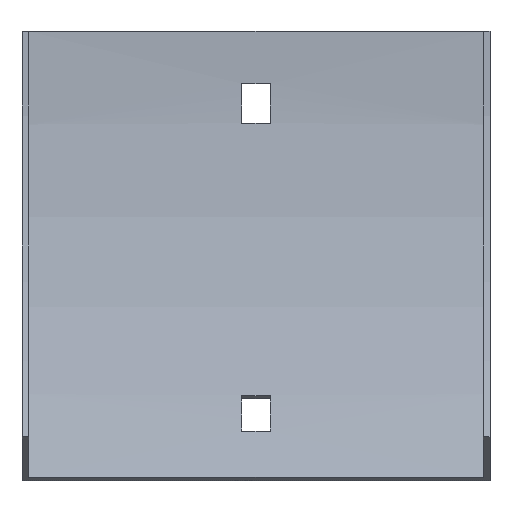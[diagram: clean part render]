
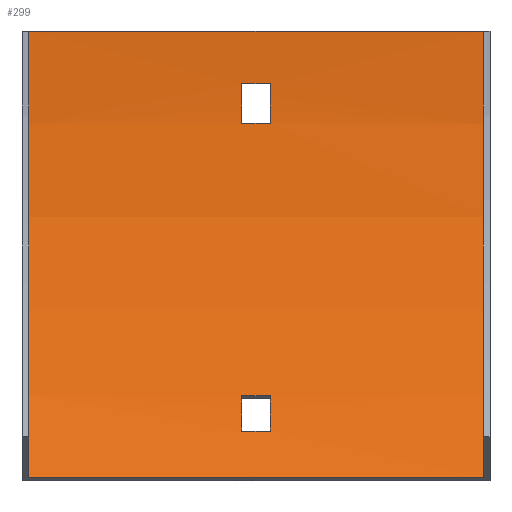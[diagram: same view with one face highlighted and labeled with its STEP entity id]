
A CAD part, front view. The second image highlights one B-rep face of the part: STEP entity #299.
In plain terms, the highlighted cylindrical face has radius 204 mm (diameter 408 mm), a partial arc.
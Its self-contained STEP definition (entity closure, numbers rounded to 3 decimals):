
#7 = DIRECTION ( 'NONE',  ( 1., 0., 0. ) ) ;
#18 = DIRECTION ( 'NONE',  ( 1., 0., 0. ) ) ;
#20 = CARTESIAN_POINT ( 'NONE',  ( 3.25, -1.853, -12. ) ) ;
#32 = ORIENTED_EDGE ( 'NONE', *, *, #36, .F. ) ;
#36 = EDGE_CURVE ( 'NONE', #607, #523, #484, .T. ) ;
#38 = VERTEX_POINT ( 'NONE', #58 ) ;
#40 = VERTEX_POINT ( 'NONE', #443 ) ;
#41 = CIRCLE ( 'NONE', #528, 204. ) ;
#49 = EDGE_CURVE ( 'NONE', #326, #594, #64, .T. ) ;
#50 = AXIS2_PLACEMENT_3D ( 'NONE', #157, #348, #536 ) ;
#52 = EDGE_CURVE ( 'NONE', #38, #239, #340, .T. ) ;
#53 = DIRECTION ( 'NONE',  ( 0., 0., 1. ) ) ;
#58 = CARTESIAN_POINT ( 'NONE',  ( 3.25, -19.269, -83.272 ) ) ;
#59 = DIRECTION ( 'NONE',  ( 0., 0., -1. ) ) ;
#60 = CARTESIAN_POINT ( 'NONE',  ( 53.5, -2.584, -21. ) ) ;
#64 = CIRCLE ( 'NONE', #50, 204. ) ;
#66 = ORIENTED_EDGE ( 'NONE', *, *, #576, .F. ) ;
#77 = EDGE_CURVE ( 'NONE', #574, #38, #111, .T. ) ;
#86 = CIRCLE ( 'NONE', #453, 204. ) ;
#90 = ORIENTED_EDGE ( 'NONE', *, *, #287, .T. ) ;
#98 = CARTESIAN_POINT ( 'NONE',  ( -52., -205.5, 0. ) ) ;
#103 = LINE ( 'NONE', #425, #177 ) ;
#108 = DIRECTION ( 'NONE',  ( 0., 0., 1. ) ) ;
#111 = LINE ( 'NONE', #498, #493 ) ;
#115 = DIRECTION ( 'NONE',  ( 0., 0., 1. ) ) ;
#118 = CARTESIAN_POINT ( 'NONE',  ( -3.25, -19.269, -83.272 ) ) ;
#129 = CARTESIAN_POINT ( 'NONE',  ( -52., -28.831, -102. ) ) ;
#137 = VERTEX_POINT ( 'NONE', #129 ) ;
#145 = DIRECTION ( 'NONE',  ( -1., 0., 0. ) ) ;
#149 = DIRECTION ( 'NONE',  ( -1., 0., 0. ) ) ;
#154 = DIRECTION ( 'NONE',  ( 1., 0., 0. ) ) ;
#157 = CARTESIAN_POINT ( 'NONE',  ( 52., -205.5, 0. ) ) ;
#160 = DIRECTION ( 'NONE',  ( 1., 0., 0. ) ) ;
#161 = VERTEX_POINT ( 'NONE', #170 ) ;
#165 = CARTESIAN_POINT ( 'NONE',  ( -3.25, -1.853, -12. ) ) ;
#167 = CIRCLE ( 'NONE', #338, 204. ) ;
#169 = AXIS2_PLACEMENT_3D ( 'NONE', #247, #18, #59 ) ;
#170 = CARTESIAN_POINT ( 'NONE',  ( -3.25, -23.137, -91.431 ) ) ;
#175 = EDGE_LOOP ( 'NONE', ( #490, #66, #427, #32 ) ) ;
#176 = ORIENTED_EDGE ( 'NONE', *, *, #49, .T. ) ;
#177 = VECTOR ( 'NONE', #221, 1000. ) ;
#199 = CYLINDRICAL_SURFACE ( 'NONE', #325, 204. ) ;
#202 = DIRECTION ( 'NONE',  ( -1., 0., 0. ) ) ;
#213 = CARTESIAN_POINT ( 'NONE',  ( 52., -1.5, 0. ) ) ;
#221 = DIRECTION ( 'NONE',  ( -1., 0., 0. ) ) ;
#236 = ORIENTED_EDGE ( 'NONE', *, *, #359, .T. ) ;
#238 = FACE_BOUND ( 'NONE', #175, .T. ) ;
#239 = VERTEX_POINT ( 'NONE', #392 ) ;
#247 = CARTESIAN_POINT ( 'NONE',  ( -3.25, -205.5, 0. ) ) ;
#254 = VECTOR ( 'NONE', #593, 1000. ) ;
#263 = VECTOR ( 'NONE', #460, 1000. ) ;
#265 = EDGE_LOOP ( 'NONE', ( #393, #462, #176, #236 ) ) ;
#278 = ORIENTED_EDGE ( 'NONE', *, *, #590, .T. ) ;
#280 = EDGE_CURVE ( 'NONE', #523, #537, #86, .T. ) ;
#287 = EDGE_CURVE ( 'NONE', #161, #574, #580, .T. ) ;
#296 = DIRECTION ( 'NONE',  ( 0., 0., -1. ) ) ;
#299 = ADVANCED_FACE ( 'NONE', ( #238, #344, #534 ), #199, .F. ) ;
#303 = CARTESIAN_POINT ( 'NONE',  ( 3.25, -205.5, 0. ) ) ;
#307 = CARTESIAN_POINT ( 'NONE',  ( 3.25, -2.584, -21. ) ) ;
#311 = CARTESIAN_POINT ( 'NONE',  ( -3.25, -205.5, 0. ) ) ;
#316 = CARTESIAN_POINT ( 'NONE',  ( 53.5, -1.853, -12. ) ) ;
#318 = VERTEX_POINT ( 'NONE', #165 ) ;
#321 = CARTESIAN_POINT ( 'NONE',  ( 52., -28.831, -102. ) ) ;
#325 = AXIS2_PLACEMENT_3D ( 'NONE', #445, #573, #108 ) ;
#326 = VERTEX_POINT ( 'NONE', #321 ) ;
#330 = VECTOR ( 'NONE', #145, 1000. ) ;
#331 = VECTOR ( 'NONE', #7, 1000. ) ;
#338 = AXIS2_PLACEMENT_3D ( 'NONE', #311, #202, #583 ) ;
#340 = CIRCLE ( 'NONE', #467, 204. ) ;
#344 = FACE_OUTER_BOUND ( 'NONE', #265, .T. ) ;
#348 = DIRECTION ( 'NONE',  ( 1., 0., 0. ) ) ;
#359 = EDGE_CURVE ( 'NONE', #594, #40, #417, .T. ) ;
#372 = EDGE_LOOP ( 'NONE', ( #278, #90, #430, #424 ) ) ;
#385 = CARTESIAN_POINT ( 'NONE',  ( 52., -1.5, 0. ) ) ;
#392 = CARTESIAN_POINT ( 'NONE',  ( 3.25, -23.137, -91.431 ) ) ;
#393 = ORIENTED_EDGE ( 'NONE', *, *, #450, .F. ) ;
#417 = LINE ( 'NONE', #213, #254 ) ;
#424 = ORIENTED_EDGE ( 'NONE', *, *, #52, .T. ) ;
#425 = CARTESIAN_POINT ( 'NONE',  ( 52., -28.831, -102. ) ) ;
#427 = ORIENTED_EDGE ( 'NONE', *, *, #280, .F. ) ;
#430 = ORIENTED_EDGE ( 'NONE', *, *, #77, .T. ) ;
#434 = CARTESIAN_POINT ( 'NONE',  ( -3.25, -2.584, -21. ) ) ;
#441 = EDGE_CURVE ( 'NONE', #326, #137, #103, .T. ) ;
#443 = CARTESIAN_POINT ( 'NONE',  ( -52., -1.5, 0. ) ) ;
#445 = CARTESIAN_POINT ( 'NONE',  ( 53.5, -205.5, 0. ) ) ;
#446 = LINE ( 'NONE', #316, #263 ) ;
#450 = EDGE_CURVE ( 'NONE', #137, #40, #41, .T. ) ;
#453 = AXIS2_PLACEMENT_3D ( 'NONE', #303, #154, #296 ) ;
#460 = DIRECTION ( 'NONE',  ( -1., 0., 0. ) ) ;
#462 = ORIENTED_EDGE ( 'NONE', *, *, #441, .F. ) ;
#467 = AXIS2_PLACEMENT_3D ( 'NONE', #568, #149, #115 ) ;
#484 = LINE ( 'NONE', #60, #331 ) ;
#490 = ORIENTED_EDGE ( 'NONE', *, *, #546, .F. ) ;
#493 = VECTOR ( 'NONE', #160, 1000. ) ;
#498 = CARTESIAN_POINT ( 'NONE',  ( 53.5, -19.269, -83.272 ) ) ;
#523 = VERTEX_POINT ( 'NONE', #307 ) ;
#528 = AXIS2_PLACEMENT_3D ( 'NONE', #98, #597, #53 ) ;
#530 = CARTESIAN_POINT ( 'NONE',  ( 53.5, -23.137, -91.431 ) ) ;
#534 = FACE_BOUND ( 'NONE', #372, .T. ) ;
#536 = DIRECTION ( 'NONE',  ( 0., 0., 1. ) ) ;
#537 = VERTEX_POINT ( 'NONE', #20 ) ;
#546 = EDGE_CURVE ( 'NONE', #318, #607, #167, .T. ) ;
#568 = CARTESIAN_POINT ( 'NONE',  ( 3.25, -205.5, 0. ) ) ;
#573 = DIRECTION ( 'NONE',  ( -1., 0., 0. ) ) ;
#574 = VERTEX_POINT ( 'NONE', #118 ) ;
#576 = EDGE_CURVE ( 'NONE', #537, #318, #446, .T. ) ;
#580 = CIRCLE ( 'NONE', #169, 204. ) ;
#583 = DIRECTION ( 'NONE',  ( 0., 0., 1. ) ) ;
#590 = EDGE_CURVE ( 'NONE', #239, #161, #605, .T. ) ;
#593 = DIRECTION ( 'NONE',  ( -1., 0., 0. ) ) ;
#594 = VERTEX_POINT ( 'NONE', #385 ) ;
#597 = DIRECTION ( 'NONE',  ( 1., 0., 0. ) ) ;
#605 = LINE ( 'NONE', #530, #330 ) ;
#607 = VERTEX_POINT ( 'NONE', #434 ) ;
